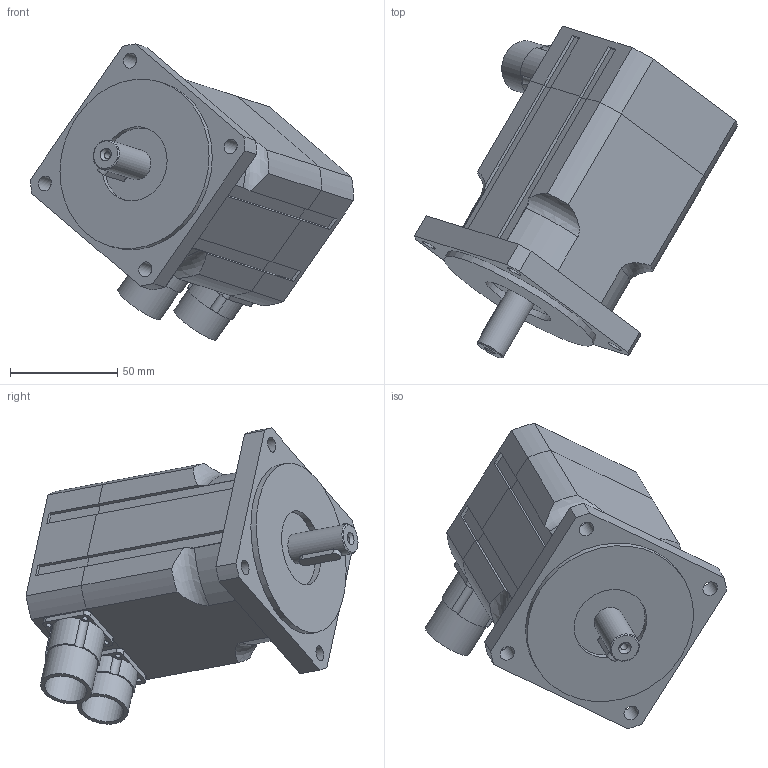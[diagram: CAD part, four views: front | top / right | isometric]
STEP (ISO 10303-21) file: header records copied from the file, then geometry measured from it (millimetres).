
FILE_DESCRIPTION(/* description */ ('Alibre Inc.'),/* implementation_level */ '2;1');
FILE_NAME(/* name */ 'export0',/* time_stamp */ '2011-08-11T08:42:18+02:00',/* author */ (''),/* organization */ (''),/* preprocessor_version */ 'ST-DEVELOPER v12',/* originating_system */ 'Alibre',/* authorisation */ '');
FILE_SCHEMA (('AUTOMOTIVE_DESIGN'));
Length unit declared in the file: millimetre
Products named in the file (6): ID_1
Bounding box: 150.28 x 154.58 x 137.9 mm (x, y, z)
Volume: 668055.9 mm3; surface area: 74639.5 mm2
Topology: 5 solids, 5 shells, 170 faces, 439 edges, 287 vertices
Faces by surface type: plane 81, cylinder 59, bspline 25, torus 4, cone 1
Full cylindrical faces by diameter (mm): 2.7 x8, 14 x1, 20 x2, 24 x2, 35 x1, 80 x1
Entity records: 5692 total; most frequent: CARTESIAN_POINT 1548, ORIENTED_EDGE 812, DIRECTION 775, EDGE_CURVE 406, AXIS2_PLACEMENT_3D 320, VERTEX_POINT 278, EDGE_LOOP 230, FACE_BOUND 230
